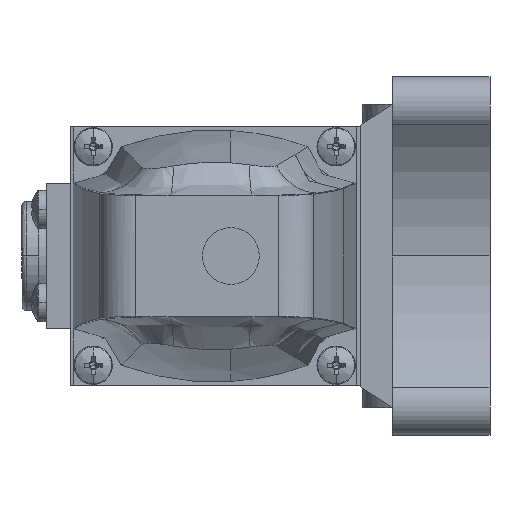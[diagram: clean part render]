
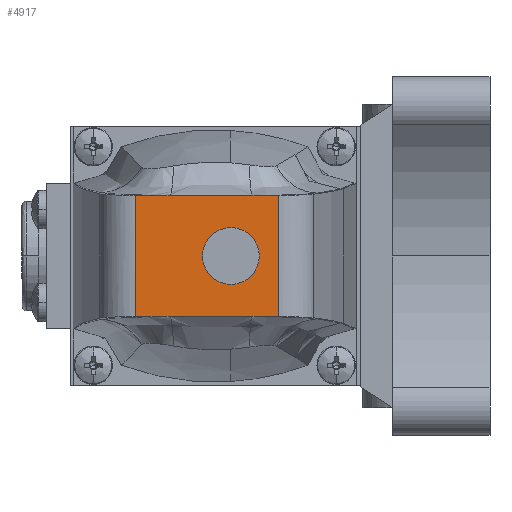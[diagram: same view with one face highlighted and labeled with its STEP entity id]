
A CAD part, left-side view. The second image highlights one B-rep face of the part: STEP entity #4917.
In plain terms, the highlighted planar face has unit normal (-1, 0, 0) as drawn and (0, 1, 0) by its records, which use the part's own axes.
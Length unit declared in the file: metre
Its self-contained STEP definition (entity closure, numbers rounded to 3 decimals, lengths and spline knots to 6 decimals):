
#765 = VERTEX_POINT ( 'NONE', #2898 ) ;
#790 = ORIENTED_EDGE ( 'NONE', *, *, #7056, .T. ) ;
#940 = LINE ( 'NONE', #15818, #14800 ) ;
#1014 = CARTESIAN_POINT ( 'NONE',  ( -0.015014, 0.1617, -0.005189 ) ) ;
#1089 = CIRCLE ( 'NONE', #5148, 0.007 ) ;
#1178 = EDGE_CURVE ( 'NONE', #765, #9597, #10227, .T. ) ;
#1202 = LINE ( 'NONE', #10645, #7707 ) ;
#1555 = ORIENTED_EDGE ( 'NONE', *, *, #11368, .T. ) ;
#1557 = B_SPLINE_CURVE_WITH_KNOTS ( 'NONE', 3,
 ( #6879, #1713, #3026, #12130 ),
 .UNSPECIFIED., .F., .F.,
 ( 4, 4 ),
 ( 0., 0.003625 ),
 .UNSPECIFIED. ) ;
#1713 = CARTESIAN_POINT ( 'NONE',  ( -0.015, 0.1617, -0.007605 ) ) ;
#1762 = FACE_OUTER_BOUND ( 'NONE', #3543, .T. ) ;
#1936 = EDGE_LOOP ( 'NONE', ( #16671, #2032 ) ) ;
#2032 = ORIENTED_EDGE ( 'NONE', *, *, #7474, .T. ) ;
#2278 = EDGE_CURVE ( 'NONE', #14652, #765, #940, .T. ) ;
#2320 = ORIENTED_EDGE ( 'NONE', *, *, #10333, .T. ) ;
#2532 = CARTESIAN_POINT ( 'NONE',  ( 0.015009, 0.1617, 0.014983 ) ) ;
#2858 = DIRECTION ( 'NONE',  ( 0., 0., 1. ) ) ;
#2898 = CARTESIAN_POINT ( 'NONE',  ( 0.015, 0.1617, 0.017942 ) ) ;
#2946 = CIRCLE ( 'NONE', #13033, 0.007 ) ;
#2962 = VERTEX_POINT ( 'NONE', #9368 ) ;
#3026 = CARTESIAN_POINT ( 'NONE',  ( -0.015011, 0.1617, -0.006397 ) ) ;
#3158 = ORIENTED_EDGE ( 'NONE', *, *, #2278, .T. ) ;
#3244 = CARTESIAN_POINT ( 'NONE',  ( -0.015014, 0.1617, -0.005189 ) ) ;
#3286 = VECTOR ( 'NONE', #4776, 1. ) ;
#3371 = CARTESIAN_POINT ( 'NONE',  ( 0., 0.1617, -0.011838 ) ) ;
#3543 = EDGE_LOOP ( 'NONE', ( #2320, #9050, #3974, #14055, #1555, #8572, #11785, #10640, #12820, #3158, #4157, #790 ) ) ;
#3651 = CARTESIAN_POINT ( 'NONE',  ( 0.015, 0.1617, -0.008814 ) ) ;
#3784 = VERTEX_POINT ( 'NONE', #6192 ) ;
#3856 = CARTESIAN_POINT ( 'NONE',  ( 0.015, 0.1617, 0.016956 ) ) ;
#3974 = ORIENTED_EDGE ( 'NONE', *, *, #16148, .T. ) ;
#4116 = PLANE ( 'NONE',  #11573 ) ;
#4146 = CARTESIAN_POINT ( 'NONE',  ( 0.015011, 0.1617, -0.006397 ) ) ;
#4157 = ORIENTED_EDGE ( 'NONE', *, *, #1178, .T. ) ;
#4204 = CARTESIAN_POINT ( 'NONE',  ( 0.015, 0.1617, -0.008814 ) ) ;
#4205 = CARTESIAN_POINT ( 'NONE',  ( -0.015211, 0.1617, -0.011838 ) ) ;
#4393 = DIRECTION ( 'NONE',  ( 0., 1., 0. ) ) ;
#4455 = DIRECTION ( 'NONE',  ( 0., 0., 1. ) ) ;
#4688 = CARTESIAN_POINT ( 'NONE',  ( -0.015009, 0.1617, 0.014983 ) ) ;
#4706 = CARTESIAN_POINT ( 'NONE',  ( 0.007, 0.1617, 0. ) ) ;
#4776 = DIRECTION ( 'NONE',  ( 0., 0., -1. ) ) ;
#4790 = FACE_BOUND ( 'NONE', #1936, .T. ) ;
#4878 = CARTESIAN_POINT ( 'NONE',  ( -0.015, 0.1617, 0.023596 ) ) ;
#4917 = ADVANCED_FACE ( 'NONE', ( #4790, #1762 ), #4116, .T. ) ;
#5148 = AXIS2_PLACEMENT_3D ( 'NONE', #14802, #14829, #14888 ) ;
#5467 = DIRECTION ( 'NONE',  ( 0., 0., -1. ) ) ;
#5517 = B_SPLINE_CURVE_WITH_KNOTS ( 'NONE', 3,
 ( #6220, #6351, #6443, #6482, #6534, #6554 ),
 .UNSPECIFIED., .F., .F.,
 ( 4, 2, 4 ),
 ( 0., 0.010086, 0.020172 ),
 .UNSPECIFIED. ) ;
#5555 = CARTESIAN_POINT ( 'NONE',  ( 0.015, 0.1617, 0.023596 ) ) ;
#5668 = VERTEX_POINT ( 'NONE', #15930 ) ;
#5842 = CARTESIAN_POINT ( 'NONE',  ( -0.015028, 0.1617, 0.008259 ) ) ;
#5935 = LINE ( 'NONE', #3371, #15910 ) ;
#6192 = CARTESIAN_POINT ( 'NONE',  ( 0.015014, 0.1617, -0.005189 ) ) ;
#6220 = CARTESIAN_POINT ( 'NONE',  ( 0.015009, 0.1617, 0.014983 ) ) ;
#6246 = VERTEX_POINT ( 'NONE', #4706 ) ;
#6255 = VERTEX_POINT ( 'NONE', #4688 ) ;
#6351 = CARTESIAN_POINT ( 'NONE',  ( 0.015019, 0.1617, 0.011621 ) ) ;
#6443 = CARTESIAN_POINT ( 'NONE',  ( 0.015028, 0.1617, 0.008259 ) ) ;
#6482 = CARTESIAN_POINT ( 'NONE',  ( 0.015031, 0.1617, 0.001535 ) ) ;
#6534 = CARTESIAN_POINT ( 'NONE',  ( 0.015025, 0.1617, -0.001827 ) ) ;
#6554 = CARTESIAN_POINT ( 'NONE',  ( 0.015014, 0.1617, -0.005189 ) ) ;
#6716 = LINE ( 'NONE', #8676, #3286 ) ;
#6879 = CARTESIAN_POINT ( 'NONE',  ( -0.015, 0.1617, -0.008814 ) ) ;
#7056 = EDGE_CURVE ( 'NONE', #9597, #3784, #5517, .T. ) ;
#7155 = CARTESIAN_POINT ( 'NONE',  ( -0.015009, 0.1617, 0.014983 ) ) ;
#7214 = EDGE_CURVE ( 'NONE', #6255, #5668, #10318, .T. ) ;
#7400 = LINE ( 'NONE', #9636, #14343 ) ;
#7474 = EDGE_CURVE ( 'NONE', #13605, #6246, #1089, .T. ) ;
#7587 = EDGE_CURVE ( 'NONE', #6246, #13605, #2946, .T. ) ;
#7608 = CARTESIAN_POINT ( 'NONE',  ( 0.015, 0.1617, -0.011838 ) ) ;
#7707 = VECTOR ( 'NONE', #2858, 1. ) ;
#8407 = DIRECTION ( 'NONE',  ( 0., 0., 1. ) ) ;
#8572 = ORIENTED_EDGE ( 'NONE', *, *, #9736, .T. ) ;
#8676 = CARTESIAN_POINT ( 'NONE',  ( 0.015, 0.1617, 0.005879 ) ) ;
#8732 = EDGE_CURVE ( 'NONE', #15641, #2962, #16104, .T. ) ;
#8923 = EDGE_CURVE ( 'NONE', #9007, #16730, #6716, .T. ) ;
#9007 = VERTEX_POINT ( 'NONE', #3651 ) ;
#9050 = ORIENTED_EDGE ( 'NONE', *, *, #8923, .T. ) ;
#9368 = CARTESIAN_POINT ( 'NONE',  ( -0.015, 0.1617, -0.008814 ) ) ;
#9406 = CARTESIAN_POINT ( 'NONE',  ( 0.015014, 0.1617, -0.005189 ) ) ;
#9514 = VERTEX_POINT ( 'NONE', #4878 ) ;
#9597 = VERTEX_POINT ( 'NONE', #16830 ) ;
#9636 = CARTESIAN_POINT ( 'NONE',  ( 0., 0.1617, 0.023596 ) ) ;
#9736 = EDGE_CURVE ( 'NONE', #12775, #6255, #16157, .T. ) ;
#10227 = B_SPLINE_CURVE_WITH_KNOTS ( 'NONE', 3,
 ( #12957, #3856, #14267, #2532 ),
 .UNSPECIFIED., .F., .F.,
 ( 4, 4 ),
 ( 0., 0.002958 ),
 .UNSPECIFIED. ) ;
#10318 = B_SPLINE_CURVE_WITH_KNOTS ( 'NONE', 3,
 ( #10443, #10423, #10673, #10708 ),
 .UNSPECIFIED., .F., .F.,
 ( 4, 4 ),
 ( 0., 0.002958 ),
 .UNSPECIFIED. ) ;
#10333 = EDGE_CURVE ( 'NONE', #3784, #9007, #11894, .T. ) ;
#10423 = CARTESIAN_POINT ( 'NONE',  ( -0.015006, 0.1617, 0.01597 ) ) ;
#10443 = CARTESIAN_POINT ( 'NONE',  ( -0.015009, 0.1617, 0.014983 ) ) ;
#10640 = ORIENTED_EDGE ( 'NONE', *, *, #11301, .T. ) ;
#10645 = CARTESIAN_POINT ( 'NONE',  ( -0.015, 0.1617, 0.005879 ) ) ;
#10673 = CARTESIAN_POINT ( 'NONE',  ( -0.015, 0.1617, 0.016956 ) ) ;
#10708 = CARTESIAN_POINT ( 'NONE',  ( -0.015, 0.1617, 0.017942 ) ) ;
#11050 = CARTESIAN_POINT ( 'NONE',  ( -0.015025, 0.1617, -0.001827 ) ) ;
#11167 = DIRECTION ( 'NONE',  ( -1., 0., 0. ) ) ;
#11301 = EDGE_CURVE ( 'NONE', #5668, #9514, #1202, .T. ) ;
#11368 = EDGE_CURVE ( 'NONE', #2962, #12775, #1557, .T. ) ;
#11573 = AXIS2_PLACEMENT_3D ( 'NONE', #4205, #4393, #4455 ) ;
#11785 = ORIENTED_EDGE ( 'NONE', *, *, #7214, .T. ) ;
#11894 = B_SPLINE_CURVE_WITH_KNOTS ( 'NONE', 3,
 ( #9406, #4146, #12012, #4204 ),
 .UNSPECIFIED., .F., .F.,
 ( 4, 4 ),
 ( 0., 0.003625 ),
 .UNSPECIFIED. ) ;
#12012 = CARTESIAN_POINT ( 'NONE',  ( 0.015, 0.1617, -0.007605 ) ) ;
#12130 = CARTESIAN_POINT ( 'NONE',  ( -0.015014, 0.1617, -0.005189 ) ) ;
#12161 = CARTESIAN_POINT ( 'NONE',  ( -0.007, 0.1617, 0. ) ) ;
#12775 = VERTEX_POINT ( 'NONE', #1014 ) ;
#12820 = ORIENTED_EDGE ( 'NONE', *, *, #14052, .T. ) ;
#12957 = CARTESIAN_POINT ( 'NONE',  ( 0.015, 0.1617, 0.017942 ) ) ;
#13033 = AXIS2_PLACEMENT_3D ( 'NONE', #16666, #16704, #16722 ) ;
#13569 = CARTESIAN_POINT ( 'NONE',  ( -0.015, 0.1617, 0.005879 ) ) ;
#13605 = VERTEX_POINT ( 'NONE', #12161 ) ;
#13664 = CARTESIAN_POINT ( 'NONE',  ( -0.015031, 0.1617, 0.001535 ) ) ;
#14052 = EDGE_CURVE ( 'NONE', #9514, #14652, #7400, .T. ) ;
#14055 = ORIENTED_EDGE ( 'NONE', *, *, #8732, .T. ) ;
#14267 = CARTESIAN_POINT ( 'NONE',  ( 0.015006, 0.1617, 0.01597 ) ) ;
#14343 = VECTOR ( 'NONE', #14804, 1. ) ;
#14652 = VERTEX_POINT ( 'NONE', #5555 ) ;
#14800 = VECTOR ( 'NONE', #5467, 1. ) ;
#14802 = CARTESIAN_POINT ( 'NONE',  ( 0., 0.1617, 0. ) ) ;
#14804 = DIRECTION ( 'NONE',  ( 1., 0., 0. ) ) ;
#14829 = DIRECTION ( 'NONE',  ( 0., -1., 0. ) ) ;
#14888 = DIRECTION ( 'NONE',  ( 1., 0., 0. ) ) ;
#14961 = CARTESIAN_POINT ( 'NONE',  ( -0.015019, 0.1617, 0.011621 ) ) ;
#15286 = VECTOR ( 'NONE', #8407, 1. ) ;
#15641 = VERTEX_POINT ( 'NONE', #16731 ) ;
#15818 = CARTESIAN_POINT ( 'NONE',  ( 0.015, 0.1617, 0.005879 ) ) ;
#15910 = VECTOR ( 'NONE', #11167, 1. ) ;
#15930 = CARTESIAN_POINT ( 'NONE',  ( -0.015, 0.1617, 0.017942 ) ) ;
#16104 = LINE ( 'NONE', #13569, #15286 ) ;
#16148 = EDGE_CURVE ( 'NONE', #16730, #15641, #5935, .T. ) ;
#16157 = B_SPLINE_CURVE_WITH_KNOTS ( 'NONE', 3,
 ( #3244, #11050, #13664, #5842, #14961, #7155 ),
 .UNSPECIFIED., .F., .F.,
 ( 4, 2, 4 ),
 ( 0., 0.010086, 0.020172 ),
 .UNSPECIFIED. ) ;
#16666 = CARTESIAN_POINT ( 'NONE',  ( 0., 0.1617, 0. ) ) ;
#16671 = ORIENTED_EDGE ( 'NONE', *, *, #7587, .T. ) ;
#16704 = DIRECTION ( 'NONE',  ( 0., -1., 0. ) ) ;
#16722 = DIRECTION ( 'NONE',  ( 1., 0., 0. ) ) ;
#16730 = VERTEX_POINT ( 'NONE', #7608 ) ;
#16731 = CARTESIAN_POINT ( 'NONE',  ( -0.015, 0.1617, -0.011838 ) ) ;
#16830 = CARTESIAN_POINT ( 'NONE',  ( 0.015009, 0.1617, 0.014983 ) ) ;
